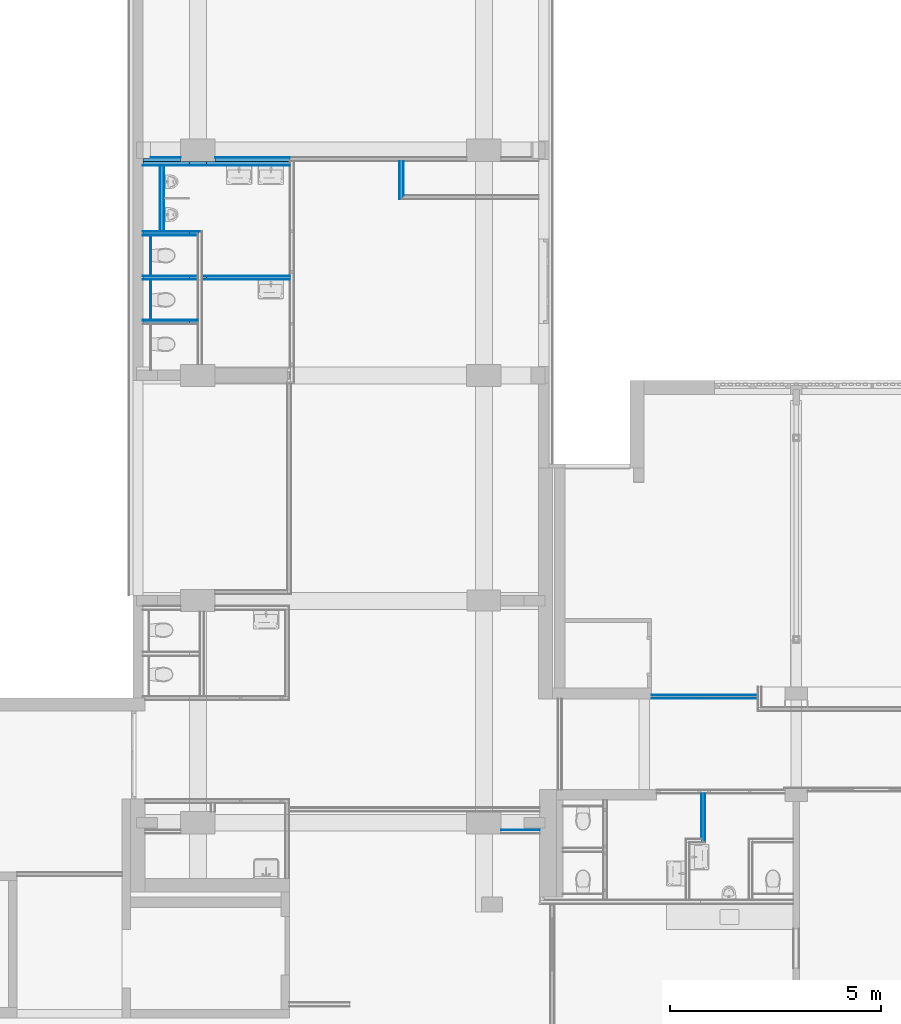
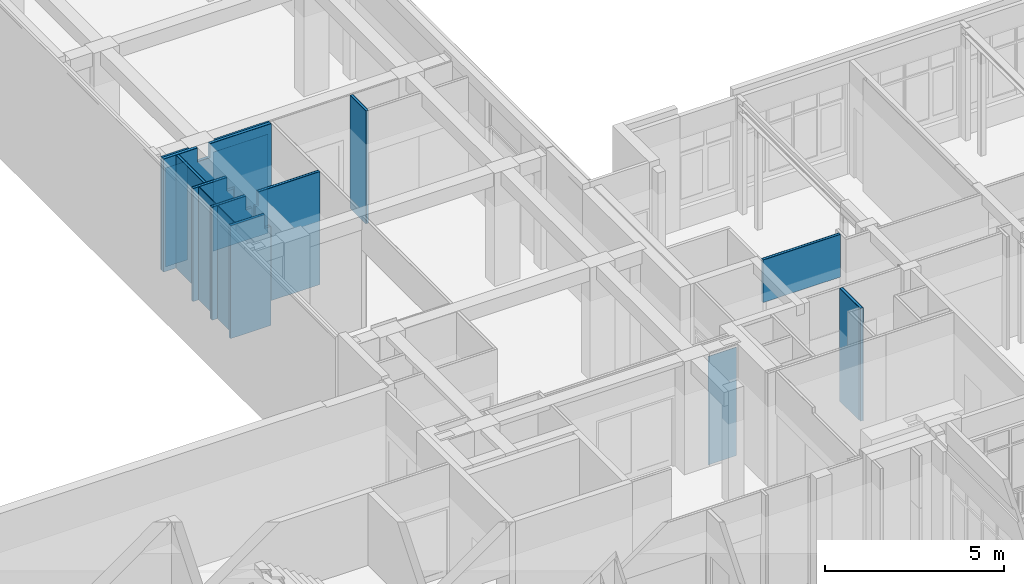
# One storey, part 107 of 135: 29 building element parts, 1 opening, 12 elements without a shape of their own.
"""IFC2X3 building model written with IfcOpenShell, lengths in millimetres."""

from ifc_helpers import new_model, entity, si_unit, converted_unit, derived_unit, money_unit, direction, frame, origin_with_axes, place, context, subcontext, project, spatial, faceted_brep, material, type_object, element, aggregate, save


model = new_model("IFC2X3")

# Units and contexts
model_context = context("Model", 3, precision=0.01, world=origin_with_axes(), true_north=direction((0.0, 1.0)))
body_context = subcontext(model_context, "Body", "Model", "MODEL_VIEW")
ifc_project = project(units=[si_unit("LENGTHUNIT", "METRE", prefix="MILLI"), si_unit("AREAUNIT", "SQUARE_METRE"), si_unit("VOLUMEUNIT", "CUBIC_METRE"), converted_unit("PLANEANGLEUNIT", "DEGREE", entity("IfcPlaneAngleMeasure", 0.0174532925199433), si_unit("PLANEANGLEUNIT", "RADIAN"), dimensions=[0, 0, 0, 0, 0, 0, 0]), money_unit("EUR"), converted_unit("TIMEUNIT", "Year", entity("IfcTimeMeasure", 31557600.0), si_unit("TIMEUNIT", "SECOND"), dimensions=[0, 0, 1, 0, 0, 0, 0]), si_unit("MASSUNIT", "GRAM", prefix="KILO"), si_unit("THERMODYNAMICTEMPERATUREUNIT", "DEGREE_CELSIUS"), si_unit("LUMINOUSINTENSITYUNIT", "LUMEN"), si_unit("ENERGYUNIT", "JOULE", prefix="MEGA"), derived_unit("THERMALCONDUCTANCEUNIT", [(si_unit("POWERUNIT", "WATT"), 1), (si_unit("LENGTHUNIT", "METRE"), -1), (si_unit("THERMODYNAMICTEMPERATUREUNIT", "KELVIN"), -1)]), derived_unit("SPECIFICHEATCAPACITYUNIT", [(si_unit("ENERGYUNIT", "JOULE"), 1), (si_unit("MASSUNIT", "GRAM", prefix="KILO"), -1), (si_unit("THERMODYNAMICTEMPERATUREUNIT", "KELVIN"), -1)]), derived_unit("MASSDENSITYUNIT", [(si_unit("MASSUNIT", "GRAM", prefix="KILO"), 1), (si_unit("VOLUMEUNIT", "CUBIC_METRE"), -1)])], contexts=[model_context])

# Site, building, storey
site_placement = place(None, origin_with_axes())
site = spatial("IfcSite", under=ifc_project, at=site_placement, Name="Site", CompositionType="ELEMENT")
building_placement = place(site_placement, origin_with_axes())
building = spatial("IfcBuilding", under=site, at=building_placement, Name="Naam gebouw", CompositionType="ELEMENT")
storey_placement = place(building_placement, origin_with_axes())
storey = spatial("IfcBuildingStorey", under=building, at=storey_placement, Name="Begane grond N", CompositionType="ELEMENT", Elevation=0.0)

# Wall, building element parts
wall_type_1 = type_object("IfcWallType", Name="Metalstud iso 100 enkel 100", PredefinedType="NOTDEFINED")
wall_1_placement = place(storey_placement, frame((24013.81290066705, 33123.41242510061, -100.0), z_axis=(0.0, 0.0, 1.0), x_axis=(-1.0, 0.0, 0.0)))
wall_1 = element("IfcWall", 1, at=wall_1_placement, inside=storey, type_object=wall_type_1, Name="_Wand-x")
ifc_material_1 = material(Name="Isolatie - Steenwol LSW")
building_element_part_1_placement = place(wall_1_placement, origin_with_axes())
building_element_part_1 = element("IfcBuildingElementPart", 2, at=building_element_part_1_placement, material=ifc_material_1, Name="Isolatie - Steenwol LSW", context=body_context, shape_type="Brep", body=[
    faceted_brep([(2587.812900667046, 37.50000000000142, 3479.998503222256), (2587.812900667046, 12.50000000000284, 3479.998503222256), (3297.812900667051, 12.50000000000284, 3479.998503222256), (3297.812900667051, 37.50000000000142, 3479.998503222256), (2587.812900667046, 12.50000000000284, 100.0), (2587.812900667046, 37.50000000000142, 3950.0), (2587.812900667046, 100.0000000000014, 3950.0), (2587.812900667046, 100.0000000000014, 100.0000000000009), (3297.812900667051, 12.50000000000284, 100.0), (3297.812900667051, 37.50000000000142, 100.0), (3477.812900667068, 37.50000000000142, 100.0), (3477.812900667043, 37.50000000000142, 3479.998503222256), (3477.812900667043, 37.50000000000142, 3950.0), (3477.812900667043, 100.0000000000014, 3950.0), (3477.812900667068, 100.0000000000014, 100.0)], [[[0, 1, 2, 3]], [[4, 1, 0, 5, 6, 7]], [[1, 4, 8, 2]], [[3, 2, 8, 9]], [[5, 0, 3, 9, 10, 11, 12]], [[6, 5, 12, 13]], [[7, 6, 13, 14]], [[4, 7, 14, 10, 9, 8]], [[11, 10, 14, 13, 12]]]),
    faceted_brep([(1767.812900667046, 12.50000000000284, 100.0), (1767.812900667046, 12.50000000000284, 3479.998503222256), (0.0, 12.50000000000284, 3479.998503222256), (0.0, 12.50000000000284, 100.0), (1767.812900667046, 37.50000000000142, 3479.998503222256), (1767.812900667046, 100.0000000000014, 100.0), (1767.812900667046, 100.0000000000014, 3950.0), (1767.812900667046, 37.50000000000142, 3950.0), (0.0, 37.50000000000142, 3479.998503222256), (0.0, 37.50000000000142, 3950.0), (0.0, 100.0000000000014, 3950.0), (0.0, 100.0000000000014, 100.0)], [[[0, 1, 2, 3]], [[4, 1, 0, 5, 6, 7]], [[1, 4, 8, 2]], [[2, 8, 9, 10, 11, 3]], [[5, 0, 3, 11]], [[6, 5, 11, 10]], [[7, 6, 10, 9]], [[4, 7, 9, 8]]]),
])
ifc_material_2 = material(Name="Gipsplaat")
building_element_part_2_placement = place(wall_1_placement, origin_with_axes())
building_element_part_2 = element("IfcBuildingElementPart", 3, at=building_element_part_2_placement, material=ifc_material_2, Name="Gipsplaat", context=body_context, shape_type="Brep", body=[
    faceted_brep([(2587.812900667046, 12.50000000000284, 3479.998503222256), (2587.812900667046, 0.0, 3479.998503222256), (3297.812900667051, 0.0, 3479.998503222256), (3297.812900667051, 12.50000000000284, 3479.998503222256), (2587.812900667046, 0.0, 100.0), (2587.812900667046, 12.50000000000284, 100.0), (3297.812900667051, 0.0, 100.0), (3297.812900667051, 12.50000000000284, 100.0)], [[[0, 1, 2, 3]], [[4, 1, 0, 5]], [[1, 4, 6, 2]], [[3, 2, 6, 7]], [[5, 0, 3, 7]], [[4, 5, 7, 6]]]),
    faceted_brep([(1767.812900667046, 0.0, 100.0), (1767.812900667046, 0.0, 3479.998503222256), (0.0, 0.0, 3479.998503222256), (0.0, 0.0, 100.0), (1767.812900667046, 12.50000000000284, 3479.998503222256), (1767.812900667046, 12.50000000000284, 100.0), (0.0, 12.50000000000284, 3479.998503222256), (0.0, 12.50000000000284, 100.0)], [[[0, 1, 2, 3]], [[4, 1, 0, 5]], [[1, 4, 6, 2]], [[3, 2, 6, 7]], [[5, 0, 3, 7]], [[4, 5, 7, 6]]]),
])
aggregate(wall_1, [building_element_part_1, building_element_part_2])

wall_type_2 = type_object("IfcWallType", Name="Metalstud iso 100 100", PredefinedType="NOTDEFINED")
wall_2_placement = place(storey_placement, frame((20535.99999999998, 30268.41242510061, 0.0), z_axis=(0.0, 0.0, 1.0), x_axis=(1.0, 0.0, 0.0)))
wall_2 = element("IfcWall", 4, at=wall_2_placement, inside=storey, type_object=wall_type_2, Name="_Wand-x")
building_element_part_3_placement = place(wall_2_placement, origin_with_axes())
building_element_part_3 = element("IfcBuildingElementPart", 5, at=building_element_part_3_placement, material=ifc_material_2, Name="Gipsplaat", context=body_context, shape_type="Brep", body=[
    faceted_brep([(1100.000000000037, 50.00000000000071, 3850.0), (1100.000000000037, 50.00000000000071, 3379.998269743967), (1300.000000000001, 50.00000000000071, 3379.998503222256), (1300.000000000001, 50.00000000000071, 0.0), (0.0, 50.00000000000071, 0.0), (0.0, 50.00000000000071, 3850.0), (1100.000000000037, 37.50000000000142, 3850.0), (1100.000000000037, 37.50000000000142, 3379.998268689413), (1300.000000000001, 37.50000000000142, 3379.998503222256), (1300.000000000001, 37.50000000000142, 0.0), (0.0, 37.50000000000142, 0.0), (0.0, 37.50000000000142, 3850.0)], [[[0, 1, 2, 3, 4, 5]], [[1, 0, 6, 7]], [[8, 2, 1, 7]], [[2, 8, 9, 3]], [[3, 9, 10, 4]], [[10, 11, 5, 4]], [[6, 0, 5, 11]], [[7, 6, 11, 10, 9, 8]]]),
    faceted_brep([(1400.000000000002, 50.00000000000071, 3379.998503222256), (1500.000000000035, 50.00000000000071, 3379.998269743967), (1500.000000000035, 50.00000000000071, 3850.0), (3477.812900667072, 50.00000000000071, 3850.0), (3477.812900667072, 50.00000000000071, 0.0), (1400.000000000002, 50.00000000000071, 0.0), (1400.000000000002, 37.50000000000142, 3379.998503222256), (1500.000000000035, 37.50000000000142, 3379.998268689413), (1500.000000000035, 37.50000000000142, 3850.0), (3477.812900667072, 37.50000000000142, 3850.0), (3477.812900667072, 37.50000000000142, 0.0), (1400.000000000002, 37.50000000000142, 0.0)], [[[0, 1, 2, 3, 4, 5]], [[1, 0, 6, 7]], [[8, 2, 1, 7]], [[2, 8, 9, 3]], [[4, 3, 9, 10]], [[10, 11, 5, 4]], [[6, 0, 5, 11]], [[7, 6, 11, 10, 9, 8]]]),
])
building_element_part_4_placement = place(wall_2_placement, origin_with_axes())
building_element_part_4 = element("IfcBuildingElementPart", 6, at=building_element_part_4_placement, material=ifc_material_1, Name="Isolatie - Steenwol LSW", context=body_context, shape_type="Brep", body=[
    faceted_brep([(1100.000000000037, 37.50000000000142, 3850.0), (1100.000000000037, 37.50000000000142, 3379.998268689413), (1300.000000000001, 37.50000000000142, 3379.998503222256), (1300.000000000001, 37.50000000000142, 0.0), (0.0, 37.50000000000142, 0.0), (0.0, 37.50000000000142, 3850.0), (1100.000000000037, -37.50000000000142, 3850.0), (1100.000000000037, -37.50000000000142, 3379.998262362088), (1300.000000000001, -37.50000000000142, 3379.998503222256), (1300.000000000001, -37.50000000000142, 0.0), (0.0, -37.50000000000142, 0.0), (0.0, -37.50000000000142, 3850.0)], [[[0, 1, 2, 3, 4, 5]], [[1, 0, 6, 7]], [[8, 2, 1, 7]], [[2, 8, 9, 3]], [[3, 9, 10, 4]], [[10, 11, 5, 4]], [[6, 0, 5, 11]], [[7, 6, 11, 10, 9, 8]]]),
    faceted_brep([(1400.000000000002, 37.50000000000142, 3379.998503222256), (1500.000000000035, 37.50000000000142, 3379.998268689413), (1500.000000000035, 37.50000000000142, 3850.0), (3477.812900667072, 37.50000000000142, 3850.0), (3477.812900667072, 37.50000000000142, 0.0), (1400.000000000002, 37.50000000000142, 0.0), (1400.000000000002, -37.50000000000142, 3379.998503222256), (1500.000000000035, -37.49999999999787, 3379.998262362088), (1500.000000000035, -37.50000000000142, 3850.0), (3477.812900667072, -37.49999999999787, 3850.0), (3477.812900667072, -37.50000000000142, 0.0), (1400.000000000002, -37.50000000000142, 0.0)], [[[0, 1, 2, 3, 4, 5]], [[1, 0, 6, 7]], [[8, 2, 1, 7]], [[2, 8, 9, 3]], [[4, 3, 9, 10]], [[10, 11, 5, 4]], [[6, 0, 5, 11]], [[7, 6, 11, 10, 9, 8]]]),
])
building_element_part_5_placement = place(wall_2_placement, origin_with_axes())
building_element_part_5 = element("IfcBuildingElementPart", 7, at=building_element_part_5_placement, material=ifc_material_2, Name="Gipsplaat", context=body_context, shape_type="Brep", body=[
    faceted_brep([(1100.000000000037, -37.50000000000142, 3850.0), (1100.000000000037, -37.50000000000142, 3379.998262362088), (1300.000000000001, -37.50000000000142, 3379.998503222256), (1300.000000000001, -37.50000000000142, 0.0), (0.0, -37.50000000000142, 0.0), (0.0, -37.50000000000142, 3850.0), (1100.000000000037, -50.00000000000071, 3850.0), (1100.000000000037, -50.00000000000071, 3379.998261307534), (1300.000000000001, -50.00000000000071, 3379.998503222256), (1300.000000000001, -50.00000000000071, 0.0), (0.0, -50.00000000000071, 0.0), (0.0, -50.00000000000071, 3850.0)], [[[0, 1, 2, 3, 4, 5]], [[1, 0, 6, 7]], [[8, 2, 1, 7]], [[2, 8, 9, 3]], [[3, 9, 10, 4]], [[10, 11, 5, 4]], [[6, 0, 5, 11]], [[7, 6, 11, 10, 9, 8]]]),
    faceted_brep([(1400.000000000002, -37.50000000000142, 3379.998503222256), (1500.000000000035, -37.50000000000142, 3379.998262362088), (1500.000000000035, -37.50000000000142, 3850.0), (3477.812900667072, -37.49999999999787, 3850.0), (3477.812900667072, -37.50000000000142, 0.0), (1400.000000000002, -37.50000000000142, 0.0), (1400.000000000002, -50.00000000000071, 3379.998503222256), (1500.000000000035, -50.00000000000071, 3379.998261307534), (1500.000000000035, -50.00000000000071, 3850.0), (3477.812900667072, -50.00000000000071, 3850.0), (3477.812900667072, -50.00000000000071, 0.0), (1400.000000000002, -50.00000000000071, 0.0)], [[[0, 1, 2, 3, 4, 5]], [[1, 0, 6, 7]], [[8, 2, 1, 7]], [[2, 8, 9, 3]], [[4, 3, 9, 10]], [[10, 11, 5, 4]], [[6, 0, 5, 11]], [[7, 6, 11, 10, 9, 8]]]),
])
aggregate(wall_2, [building_element_part_3, building_element_part_4, building_element_part_5])

wall_type_3 = type_object("IfcWallType", Name="Metalstud voorzetwand 200 200", PredefinedType="NOTDEFINED")
wall_3_placement = place(storey_placement, frame((20535.99999999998, 30318.41242510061, 0.0), z_axis=(0.0, 0.0, 1.0), x_axis=(0.0, 1.0, 0.0)))
wall_3 = element("IfcWall", 8, at=wall_3_placement, inside=storey, type_object=wall_type_3, Name="_Wand-x")
building_element_part_6_placement = place(wall_3_placement, origin_with_axes())
building_element_part_6 = element("IfcBuildingElementPart", 9, at=building_element_part_6_placement, material=ifc_material_2, Name="Gipsplaat", context=body_context, shape_type="Brep", body=[
    faceted_brep([(949.9999999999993, -175.0000000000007, 3850.000000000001), (949.9999999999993, -187.5, 3850.000000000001), (949.9999999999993, -187.5, 0.0), (949.9999999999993, -175.0000000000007, 0.0), (0.0, -187.5, 3850.000000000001), (0.0, -175.0000000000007, 3850.000000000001), (0.0, -187.5, 0.0), (0.0, -175.0000000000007, 0.0)], [[[0, 1, 2, 3]], [[4, 1, 0, 5]], [[1, 4, 6, 2]], [[7, 3, 2, 6]], [[5, 0, 3, 7]], [[4, 5, 7, 6]]]),
])
building_element_part_7_placement = place(wall_3_placement, origin_with_axes())
building_element_part_7 = element("IfcBuildingElementPart", 10, at=building_element_part_7_placement, material=ifc_material_2, Name="Gipsplaat", context=body_context, shape_type="Brep", body=[
    faceted_brep([(949.9999999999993, -187.5, 3850.000000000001), (949.9999999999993, -199.9999999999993, 3850.000000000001), (949.9999999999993, -199.9999999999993, 0.0), (949.9999999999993, -187.5, 0.0), (0.0, -199.9999999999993, 3850.000000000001), (0.0, -187.5, 3850.000000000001), (0.0, -199.9999999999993, 0.0), (0.0, -187.5, 0.0)], [[[0, 1, 2, 3]], [[4, 1, 0, 5]], [[1, 4, 6, 2]], [[7, 3, 2, 6]], [[5, 0, 3, 7]], [[4, 5, 7, 6]]]),
])
aggregate(wall_3, [building_element_part_6, building_element_part_7])

wall_4_placement = place(storey_placement, frame((26605.99999999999, 32223.41242510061, -100.0), z_axis=(0.0, 0.0, 1.0), x_axis=(0.0, 1.0, 0.0)))
wall_4 = element("IfcWall", 11, at=wall_4_placement, inside=storey, type_object=wall_type_2, Name="_Wand-x")
building_element_part_8_placement = place(wall_4_placement, origin_with_axes())
building_element_part_8 = element("IfcBuildingElementPart", 12, at=building_element_part_8_placement, material=ifc_material_2, Name="Gipsplaat", context=body_context, shape_type="Brep", body=[
    faceted_brep([(799.9999999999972, 0.0, 3950.0), (799.9999999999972, -12.49999999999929, 3950.0), (799.9999999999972, -12.49999999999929, 100.0), (799.9999999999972, 0.0, 100.0), (-100.0000000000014, -12.49999999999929, 3950.0), (-100.0000000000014, 0.0, 3950.0), (-100.0000000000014, -12.49999999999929, 100.0), (-100.0000000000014, 0.0, 100.0)], [[[0, 1, 2, 3]], [[4, 1, 0, 5]], [[1, 4, 6, 2]], [[3, 2, 6, 7]], [[5, 0, 3, 7]], [[4, 5, 7, 6]]]),
])
building_element_part_9_placement = place(wall_4_placement, origin_with_axes())
building_element_part_9 = element("IfcBuildingElementPart", 13, at=building_element_part_9_placement, material=ifc_material_2, Name="Gipsplaat", context=body_context, shape_type="Brep", body=[
    faceted_brep([(799.9999999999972, -87.49999999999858, 3950.0), (799.9999999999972, -100.0000000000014, 3950.0), (799.9999999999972, -100.0000000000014, 100.0), (799.9999999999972, -87.49999999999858, 100.0), (-12.50000000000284, -100.0000000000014, 3950.0), (-12.50000000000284, -87.49999999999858, 3950.0), (-12.50000000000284, -100.0000000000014, 100.0), (-12.50000000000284, -87.49999999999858, 100.0)], [[[0, 1, 2, 3]], [[4, 1, 0, 5]], [[1, 4, 6, 2]], [[3, 2, 6, 7]], [[5, 0, 3, 7]], [[4, 5, 7, 6]]]),
])
building_element_part_10_placement = place(wall_4_placement, origin_with_axes())
building_element_part_10 = element("IfcBuildingElementPart", 14, at=building_element_part_10_placement, material=ifc_material_1, Name="Isolatie - Steenwol LSW", context=body_context, shape_type="Brep", body=[
    faceted_brep([(799.9999999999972, -12.49999999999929, 3950.0), (799.9999999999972, -87.49999999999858, 3950.0), (799.9999999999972, -87.49999999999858, 100.0), (799.9999999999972, -12.49999999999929, 100.0), (-87.49999999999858, -87.49999999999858, 3950.0), (-87.49999999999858, -12.49999999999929, 3950.0), (-87.49999999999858, -87.49999999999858, 100.0), (-87.49999999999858, -12.49999999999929, 100.0)], [[[0, 1, 2, 3]], [[4, 1, 0, 5]], [[1, 4, 6, 2]], [[3, 2, 6, 7]], [[5, 0, 3, 7]], [[4, 5, 7, 6]]]),
])
aggregate(wall_4, [building_element_part_8, building_element_part_9, building_element_part_10])

wall_5_placement = place(storey_placement, frame((20985.99999999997, 31318.41242510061, 0.0), z_axis=(0.0, 0.0, 1.0), x_axis=(0.0, 1.0, 0.0)))
wall_5 = element("IfcWall", 15, at=wall_5_placement, inside=storey, type_object=wall_type_2, Name="_Wand-x")
building_element_part_11_placement = place(wall_5_placement, origin_with_axes())
building_element_part_11 = element("IfcBuildingElementPart", 16, at=building_element_part_11_placement, material=ifc_material_2, Name="Gipsplaat", context=body_context, shape_type="Brep", body=[
    faceted_brep([(1604.999999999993, 50.00000000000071, 3850.0), (1604.999999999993, 37.50000000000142, 3850.0), (1604.999999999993, 37.50000000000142, 0.0), (1604.999999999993, 50.00000000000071, 0.0), (50.00000000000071, 37.50000000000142, 3850.0), (50.00000000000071, 50.00000000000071, 3850.0), (50.00000000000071, 37.50000000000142, 0.0), (50.00000000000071, 50.00000000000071, 0.0)], [[[0, 1, 2, 3]], [[4, 1, 0, 5]], [[1, 4, 6, 2]], [[3, 2, 6, 7]], [[5, 0, 3, 7]], [[4, 5, 7, 6]]]),
])
building_element_part_12_placement = place(wall_5_placement, origin_with_axes())
building_element_part_12 = element("IfcBuildingElementPart", 17, at=building_element_part_12_placement, material=ifc_material_2, Name="Gipsplaat", context=body_context, shape_type="Brep", body=[
    faceted_brep([(1604.999999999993, -37.50000000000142, 3850.0), (1604.999999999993, -50.00000000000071, 3850.0), (1604.999999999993, -50.00000000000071, 0.0), (1604.999999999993, -37.50000000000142, 0.0), (50.00000000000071, -50.00000000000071, 3850.0), (50.00000000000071, -37.50000000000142, 3850.0), (50.00000000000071, -50.00000000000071, 0.0), (50.00000000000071, -37.50000000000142, 0.0)], [[[0, 1, 2, 3]], [[4, 1, 0, 5]], [[1, 4, 6, 2]], [[3, 2, 6, 7]], [[5, 0, 3, 7]], [[4, 5, 7, 6]]]),
])
building_element_part_13_placement = place(wall_5_placement, origin_with_axes())
building_element_part_13 = element("IfcBuildingElementPart", 18, at=building_element_part_13_placement, material=ifc_material_1, Name="Isolatie - Steenwol LSW", context=body_context, shape_type="Brep", body=[
    faceted_brep([(1604.999999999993, 37.50000000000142, 3850.0), (1604.999999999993, -37.50000000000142, 3850.0), (1604.999999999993, -37.50000000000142, 0.0), (1604.999999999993, 37.50000000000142, 0.0), (50.00000000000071, -37.50000000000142, 3850.0), (50.00000000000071, 37.50000000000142, 3850.0), (50.00000000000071, -37.50000000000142, 0.0), (50.00000000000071, 37.50000000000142, 0.0)], [[[0, 1, 2, 3]], [[4, 1, 0, 5]], [[1, 4, 6, 2]], [[3, 2, 6, 7]], [[5, 0, 3, 7]], [[4, 5, 7, 6]]]),
])
aggregate(wall_5, [building_element_part_11, building_element_part_12, building_element_part_13])

wall_6_placement = place(storey_placement, frame((24013.81290066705, 32923.4124251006, 0.0), z_axis=(0.0, 0.0, 1.0), x_axis=(-1.0, 0.0, 0.0)))
wall_6 = element("IfcWall", 19, at=wall_6_placement, inside=storey, type_object=wall_type_1, Name="_Wand-x")
building_element_part_14_placement = place(wall_6_placement, origin_with_axes())
building_element_part_14 = element("IfcBuildingElementPart", 20, at=building_element_part_14_placement, material=ifc_material_1, Name="Isolatie - Steenwol LSW", context=body_context, shape_type="Brep", body=[
    faceted_brep([(2377.812900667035, -100.0000000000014, 3379.998497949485), (1977.812900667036, -100.0000000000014, 3379.998497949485), (1977.812900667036, -100.0000000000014, 3850.0), (0.0, -100.0000000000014, 3850.0), (0.0, -100.0000000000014, 0.0), (3477.812900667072, -100.0000000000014, 0.0), (3477.812900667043, -100.0000000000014, 3850.0), (2377.812900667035, -100.0000000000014, 3850.0), (2377.812900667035, -12.50000000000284, 3379.998490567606), (1977.812900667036, -12.50000000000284, 3379.998490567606), (1977.812900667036, -12.50000000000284, 3850.0), (0.0, -12.50000000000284, 3850.0), (0.0, -12.50000000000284, 0.0), (3477.812900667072, -12.50000000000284, 0.0), (3477.812900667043, -12.50000000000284, 3850.0), (2377.812900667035, -12.50000000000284, 3850.0)], [[[0, 1, 2, 3, 4, 5, 6, 7]], [[1, 0, 8, 9]], [[10, 2, 1, 9]], [[2, 10, 11, 3]], [[4, 3, 11, 12]], [[4, 12, 13, 5]], [[13, 14, 6, 5]], [[15, 7, 6, 14]], [[0, 7, 15, 8]], [[8, 15, 14, 13, 12, 11, 10, 9]]]),
])
building_element_part_15_placement = place(wall_6_placement, origin_with_axes())
building_element_part_15 = element("IfcBuildingElementPart", 21, at=building_element_part_15_placement, material=ifc_material_2, Name="Gipsplaat", context=body_context, shape_type="Brep", body=[
    faceted_brep([(2377.812900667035, -12.50000000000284, 3379.998490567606), (1977.812900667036, -12.50000000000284, 3379.998490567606), (1977.812900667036, -12.50000000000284, 3850.0), (0.0, -12.50000000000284, 3850.0), (0.0, -12.50000000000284, 0.0), (3477.812900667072, -12.50000000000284, 0.0), (3477.812900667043, -12.50000000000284, 3850.0), (2377.812900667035, -12.50000000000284, 3850.0), (2377.812900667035, 0.0, 3379.998489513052), (1977.812900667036, 0.0, 3379.998489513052), (1977.812900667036, 0.0, 3850.0), (0.0, 0.0, 3850.0), (0.0, 0.0, 0.0), (3477.812900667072, 0.0, 0.0), (3477.812900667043, 0.0, 3850.0), (2377.812900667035, 0.0, 3850.0)], [[[0, 1, 2, 3, 4, 5, 6, 7]], [[1, 0, 8, 9]], [[10, 2, 1, 9]], [[2, 10, 11, 3]], [[4, 3, 11, 12]], [[4, 12, 13, 5]], [[13, 14, 6, 5]], [[15, 7, 6, 14]], [[0, 7, 15, 8]], [[8, 15, 14, 13, 12, 11, 10, 9]]]),
])
aggregate(wall_6, [building_element_part_14, building_element_part_15])

# Wall, building element part
wall_7_placement = place(storey_placement, frame((29015.99999999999, 17103.41242510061, 0.0), z_axis=(0.0, 0.0, 1.0), x_axis=(1.0, 0.0, 0.0)))
wall_7 = element("IfcWall", 22, at=wall_7_placement, inside=storey, type_object=wall_type_2, Name="_Wand-x")
building_element_part_16_placement = place(wall_7_placement, origin_with_axes())
building_element_part_16 = element("IfcBuildingElementPart", 23, at=building_element_part_16_placement, material=ifc_material_2, Name="Gipsplaat", context=body_context, shape_type="Brep", body=[
    faceted_brep([(0.0, 100.0000000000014, 0.0), (0.0, 100.0000000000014, 3699.999999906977), (913.1870993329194, 100.0000000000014, 3699.999999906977), (913.1870993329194, 100.0000000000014, 0.0), (0.0, 87.49999999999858, 0.0), (0.0, 87.49999999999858, 3699.999999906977), (913.1870993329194, 87.49999999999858, 3699.999999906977), (913.1870993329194, 87.49999999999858, 0.0)], [[[0, 1, 2, 3]], [[4, 5, 1, 0]], [[5, 6, 2, 1]], [[3, 2, 6, 7]], [[4, 0, 3, 7]], [[7, 6, 5, 4]]]),
])
aggregate(wall_7, [building_element_part_16])

# Wall, building element parts
wall_8_placement = place(storey_placement, frame((33749.1870993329, 18050.91242510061, 0.0), z_axis=(0.0, 0.0, 1.0), x_axis=(0.0, -1.0, 0.0)))
wall_8 = element("IfcWall", 24, at=wall_8_placement, inside=storey, type_object=wall_type_2, Name="_Wand-x")
building_element_part_17_placement = place(wall_8_placement, origin_with_axes())
building_element_part_17 = element("IfcBuildingElementPart", 25, at=building_element_part_17_placement, material=ifc_material_1, Name="Isolatie - Steenwol LSW", context=body_context, shape_type="Brep", body=[
    faceted_brep([(0.0, 12.50000000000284, 3850.0), (0.0, 87.49999999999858, 3850.0), (0.0, 87.49999999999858, 0.0), (0.0, 12.50000000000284, 0.0), (1147.499999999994, 87.49999999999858, 3850.0), (1147.499999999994, 12.50000000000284, 3850.0), (1147.499999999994, 87.49999999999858, 0.0), (1147.499999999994, 12.50000000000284, 0.0)], [[[0, 1, 2, 3]], [[4, 1, 0, 5]], [[1, 4, 6, 2]], [[6, 7, 3, 2]], [[5, 0, 3, 7]], [[4, 5, 7, 6]]]),
])
building_element_part_18_placement = place(wall_8_placement, origin_with_axes())
building_element_part_18 = element("IfcBuildingElementPart", 26, at=building_element_part_18_placement, material=ifc_material_2, Name="Gipsplaat", context=body_context, shape_type="Brep", body=[
    faceted_brep([(0.0, 0.0, 3850.0), (0.0, 12.50000000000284, 3850.0), (0.0, 12.50000000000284, 0.0), (0.0, 0.0, 0.0), (1072.499999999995, 12.50000000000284, 3850.0), (1072.499999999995, 0.0, 3850.0), (1072.499999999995, 12.50000000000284, 0.0), (1072.499999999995, 0.0, 0.0)], [[[0, 1, 2, 3]], [[4, 1, 0, 5]], [[1, 4, 6, 2]], [[6, 7, 3, 2]], [[5, 0, 3, 7]], [[4, 5, 7, 6]]]),
])
building_element_part_19_placement = place(wall_8_placement, origin_with_axes())
building_element_part_19 = element("IfcBuildingElementPart", 27, at=building_element_part_19_placement, material=ifc_material_2, Name="Gipsplaat", context=body_context, shape_type="Brep", body=[
    faceted_brep([(0.0, 87.49999999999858, 3850.0), (0.0, 100.0000000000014, 3850.0), (0.0, 100.0000000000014, 0.0), (0.0, 87.49999999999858, 0.0), (1159.999999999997, 100.0000000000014, 3850.0), (1159.999999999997, 87.49999999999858, 3850.0), (1159.999999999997, 100.0000000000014, 0.0), (1159.999999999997, 87.49999999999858, 0.0)], [[[0, 1, 2, 3]], [[4, 1, 0, 5]], [[1, 4, 6, 2]], [[6, 7, 3, 2]], [[5, 0, 3, 7]], [[4, 5, 7, 6]]]),
])
aggregate(wall_8, [building_element_part_17, building_element_part_18, building_element_part_19])

# Wall, opening, building element parts
wall_9_placement = place(storey_placement, frame((32581.11706441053, 20350.91242510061, 0.0), z_axis=(0.0, 0.0, 1.0), x_axis=(1.0, 0.0, 0.0)))
wall_9 = element("IfcWall", 28, at=wall_9_placement, inside=storey, type_object=wall_type_2, Name="_Wand-x")
opening_placement = place(wall_9_placement, frame((1251.941467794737, 0.0, 0.0), z_axis=(0.0, 0.0, 1.0), x_axis=(1.0, 0.0, 0.0)))
element("IfcOpeningElement", 29, at=opening_placement, cuts=wall_9, Name="_Merk-x", context=body_context, shape_type="Brep", body=[
    faceted_brep([(1251.941467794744, -10.00000000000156, 0.0), (1251.941467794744, -10.00000000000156, 2400.0), (1251.941467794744, -51.00000000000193, 2400.0), (1251.941467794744, -51.00000000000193, 0.0), (1251.941467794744, 51.00000000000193, 0.0), (1251.941467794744, 51.00000000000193, 2400.0), (-1251.941467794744, -10.00000000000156, 2400.0), (-1251.941467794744, -51.00000000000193, 2400.0), (-1251.941467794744, 51.00000000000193, 2400.0), (-1251.941467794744, -51.00000000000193, 0.0), (-1251.941467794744, -10.00000000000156, 0.0), (-1251.941467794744, 51.00000000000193, 0.0)], [[[0, 1, 2, 3]], [[1, 0, 4, 5]], [[6, 7, 2, 1, 5, 8]], [[7, 9, 3, 2]], [[0, 3, 9, 10, 11, 4]], [[5, 4, 11, 8]], [[6, 10, 9, 7]], [[10, 6, 8, 11]]]),
])
building_element_part_20_placement = place(wall_9_placement, origin_with_axes())
building_element_part_20 = element("IfcBuildingElementPart", 30, at=building_element_part_20_placement, material=ifc_material_2, Name="Gipsplaat", context=body_context, shape_type="Brep", body=[
    faceted_brep([(2503.88293558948, 37.50000000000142, 2400.0), (2503.88293558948, 50.00000000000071, 2400.0), (2503.88293558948, 50.00000000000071, 3850.0), (2503.88293558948, 37.50000000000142, 3850.0), (0.0, 50.00000000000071, 2400.0), (0.0, 37.50000000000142, 2400.0), (0.0, 50.00000000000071, 3850.0), (0.0, 37.50000000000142, 3850.0)], [[[0, 1, 2, 3]], [[4, 1, 0, 5]], [[1, 4, 6, 2]], [[2, 6, 7, 3]], [[5, 0, 3, 7]], [[4, 5, 7, 6]]]),
])
building_element_part_21_placement = place(wall_9_placement, origin_with_axes())
building_element_part_21 = element("IfcBuildingElementPart", 31, at=building_element_part_21_placement, material=ifc_material_1, Name="Isolatie - Steenwol LSW", context=body_context, shape_type="Brep", body=[
    faceted_brep([(2503.88293558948, -10.00000000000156, 2400.0), (2503.88293558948, 37.50000000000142, 2400.0), (2503.88293558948, 37.50000000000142, 3850.0), (2503.88293558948, -37.49999999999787, 3850.0), (2503.88293558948, -37.49999999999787, 2400.0), (0.0, -10.00000000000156, 2400.0), (0.0, 37.50000000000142, 2400.0), (0.0, -37.50000000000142, 2400.0), (0.0, 37.50000000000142, 3850.0), (0.0, -37.50000000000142, 3850.0)], [[[0, 1, 2, 3, 4]], [[5, 6, 1, 0, 4, 7]], [[1, 6, 8, 2]], [[8, 9, 3, 2]], [[4, 3, 9, 7]], [[6, 5, 7, 9, 8]]]),
])
building_element_part_22_placement = place(wall_9_placement, origin_with_axes())
building_element_part_22 = element("IfcBuildingElementPart", 32, at=building_element_part_22_placement, material=ifc_material_2, Name="Gipsplaat", context=body_context, shape_type="Brep", body=[
    faceted_brep([(2503.88293558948, -50.00000000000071, 2400.0), (2503.88293558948, -37.49999999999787, 2400.0), (2503.88293558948, -37.49999999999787, 3850.0), (2503.88293558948, -50.00000000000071, 3850.0), (0.0, -37.50000000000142, 2400.0), (0.0, -50.00000000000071, 2400.0), (0.0, -37.50000000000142, 3850.0), (0.0, -50.00000000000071, 3850.0)], [[[0, 1, 2, 3]], [[4, 1, 0, 5]], [[1, 4, 6, 2]], [[2, 6, 7, 3]], [[5, 0, 3, 7]], [[4, 5, 7, 6]]]),
])
aggregate(wall_9, [building_element_part_20, building_element_part_21, building_element_part_22])

# Wall, building element part
wall_10_placement = place(storey_placement, frame((20535.99999999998, 29218.41242510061, 0.0), z_axis=(0.0, 0.0, 1.0), x_axis=(1.0, 0.0, 0.0)))
wall_10 = element("IfcWall", 33, at=wall_10_placement, inside=storey, type_object=wall_type_2, Name="_Wand-x")
building_element_part_23_placement = place(wall_10_placement, origin_with_axes())
building_element_part_23 = element("IfcBuildingElementPart", 34, at=building_element_part_23_placement, material=ifc_material_1, Name="Isolatie - Steenwol LSW", context=body_context, shape_type="Brep", body=[
    faceted_brep([(1100.000000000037, 37.50000000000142, 3850.0), (1100.000000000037, 37.50000000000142, 3379.998180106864), (1300.000000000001, 37.50000000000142, 3379.998503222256), (1300.000000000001, 37.50000000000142, 0.0), (0.0, 37.50000000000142, 0.0), (0.0, 37.50000000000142, 3850.0), (1100.000000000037, -37.49999999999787, 3850.0), (1100.000000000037, -37.49999999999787, 3379.998173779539), (1300.000000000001, -37.49999999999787, 3379.998503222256), (1300.000000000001, -37.50000000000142, 0.0), (0.0, -37.50000000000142, 0.0), (0.0, -37.50000000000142, 3850.0)], [[[0, 1, 2, 3, 4, 5]], [[1, 0, 6, 7]], [[8, 2, 1, 7]], [[2, 8, 9, 3]], [[3, 9, 10, 4]], [[10, 11, 5, 4]], [[6, 0, 5, 11]], [[7, 6, 11, 10, 9, 8]]]),
])

# Wall, building element parts
wall_11_placement = place(storey_placement, frame((20535.99999999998, 31318.41242510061, 0.0), z_axis=(0.0, 0.0, 1.0), x_axis=(1.0, 0.0, 0.0)))
wall_11 = element("IfcWall", 35, at=wall_11_placement, inside=storey, type_object=wall_type_2, Name="_Wand-x")
building_element_part_24_placement = place(wall_11_placement, origin_with_axes())
building_element_part_24 = element("IfcBuildingElementPart", 36, at=building_element_part_24_placement, material=ifc_material_2, Name="Gipsplaat", context=body_context, shape_type="Brep", body=[
    faceted_brep([(1100.000000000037, -37.49999999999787, 3850.0), (1100.000000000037, -37.50000000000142, 3379.998350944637), (1300.000000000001, -37.49999999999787, 3379.998503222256), (1300.000000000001, -37.50000000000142, 0.0), (0.0, -37.50000000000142, 0.0), (0.0, -37.50000000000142, 3850.0), (1100.000000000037, -50.00000000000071, 3850.0), (1100.000000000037, -50.00000000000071, 3379.998349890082), (1300.000000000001, -50.00000000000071, 3379.998503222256), (1300.000000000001, -50.00000000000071, 0.0), (0.0, -50.00000000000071, 0.0), (0.0, -50.00000000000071, 3850.0)], [[[0, 1, 2, 3, 4, 5]], [[1, 0, 6, 7]], [[8, 2, 1, 7]], [[2, 8, 9, 3]], [[3, 9, 10, 4]], [[10, 11, 5, 4]], [[6, 0, 5, 11]], [[7, 6, 11, 10, 9, 8]]]),
])
building_element_part_25_placement = place(wall_11_placement, origin_with_axes())
building_element_part_25 = element("IfcBuildingElementPart", 37, at=building_element_part_25_placement, material=ifc_material_2, Name="Gipsplaat", context=body_context, shape_type="Brep", body=[
    faceted_brep([(1100.000000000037, 50.00000000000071, 3850.0), (1100.000000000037, 50.00000000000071, 3379.998358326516), (1387.499999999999, 50.00000000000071, 3379.998503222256), (1387.499999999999, 50.00000000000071, 0.0), (0.0, 50.00000000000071, 0.0), (0.0, 50.00000000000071, 3850.0), (1100.000000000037, 37.50000000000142, 3850.0), (1100.000000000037, 37.50000000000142, 3379.998357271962), (1387.499999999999, 37.50000000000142, 3379.998503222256), (1387.499999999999, 37.50000000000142, 0.0), (0.0, 37.50000000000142, 0.0), (0.0, 37.50000000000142, 3850.0)], [[[0, 1, 2, 3, 4, 5]], [[1, 0, 6, 7]], [[8, 2, 1, 7]], [[2, 8, 9, 3]], [[3, 9, 10, 4]], [[10, 11, 5, 4]], [[6, 0, 5, 11]], [[7, 6, 11, 10, 9, 8]]]),
])
building_element_part_26_placement = place(wall_11_placement, origin_with_axes())
building_element_part_26 = element("IfcBuildingElementPart", 38, at=building_element_part_26_placement, material=ifc_material_1, Name="Isolatie - Steenwol LSW", context=body_context, shape_type="Brep", body=[
    faceted_brep([(1100.000000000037, 37.50000000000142, 3850.0), (1100.000000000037, 37.50000000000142, 3379.998357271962), (1312.5, 37.50000000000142, 3379.998503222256), (1312.5, 37.50000000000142, 0.0), (0.0, 37.50000000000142, 0.0), (0.0, 37.50000000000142, 3850.0), (1100.000000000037, -37.49999999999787, 3850.0), (1100.000000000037, -37.49999999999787, 3379.998350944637), (1312.5, -37.49999999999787, 3379.998503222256), (1312.5, -37.50000000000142, 0.0), (0.0, -37.49999999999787, 0.0), (0.0, -37.50000000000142, 3850.0)], [[[0, 1, 2, 3, 4, 5]], [[1, 0, 6, 7]], [[8, 2, 1, 7]], [[2, 8, 9, 3]], [[3, 9, 10, 4]], [[10, 11, 5, 4]], [[6, 0, 5, 11]], [[7, 6, 11, 10, 9, 8]]]),
])
aggregate(wall_11, [building_element_part_24, building_element_part_25, building_element_part_26])

wall_12_placement = place(storey_placement, frame((20535.99999999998, 30218.41242510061, 0.0), z_axis=(0.0, 0.0, 1.0), x_axis=(0.0, -1.0, 0.0)))
wall_12 = element("IfcWall", 39, at=wall_12_placement, inside=storey, type_object=wall_type_3, Name="_Wand-x")
building_element_part_27_placement = place(wall_12_placement, origin_with_axes())
building_element_part_27 = element("IfcBuildingElementPart", 40, at=building_element_part_27_placement, material=ifc_material_2, Name="Gipsplaat", context=body_context, shape_type="Brep", body=[
    faceted_brep([(0.0, 187.5, 3850.000000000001), (0.0, 199.9999999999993, 3850.000000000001), (0.0, 199.9999999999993, 0.0), (0.0, 187.5, 0.0), (949.9999999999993, 199.9999999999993, 3850.000000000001), (949.9999999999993, 187.5, 3850.000000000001), (949.9999999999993, 199.9999999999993, 0.0), (949.9999999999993, 187.5, 0.0)], [[[0, 1, 2, 3]], [[4, 1, 0, 5]], [[1, 4, 6, 2]], [[2, 6, 7, 3]], [[5, 0, 3, 7]], [[4, 5, 7, 6]]]),
])
building_element_part_28_placement = place(wall_12_placement, origin_with_axes())
building_element_part_28 = element("IfcBuildingElementPart", 41, at=building_element_part_28_placement, material=ifc_material_2, Name="Gipsplaat", context=body_context, shape_type="Brep", body=[
    faceted_brep([(0.0, 175.0000000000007, 3850.000000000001), (0.0, 187.5, 3850.000000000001), (0.0, 187.5, 0.0), (0.0, 175.0000000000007, 0.0), (949.9999999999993, 187.5, 3850.000000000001), (949.9999999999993, 175.0000000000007, 3850.000000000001), (949.9999999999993, 187.5, 0.0), (949.9999999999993, 175.0000000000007, 0.0)], [[[0, 1, 2, 3]], [[4, 1, 0, 5]], [[1, 4, 6, 2]], [[2, 6, 7, 3]], [[5, 0, 3, 7]], [[4, 5, 7, 6]]]),
])
aggregate(wall_12, [building_element_part_27, building_element_part_28])

# Building element part
building_element_part_29_placement = place(wall_10_placement, origin_with_axes())
building_element_part_29 = element("IfcBuildingElementPart", 42, at=building_element_part_29_placement, material=ifc_material_2, Name="Gipsplaat", context=body_context, shape_type="Brep", body=[
    faceted_brep([(1100.000000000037, 50.00000000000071, 3850.0), (1100.000000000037, 50.00000000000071, 3379.998181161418), (1300.000000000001, 50.00000000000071, 3379.998503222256), (1300.000000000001, 50.00000000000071, 0.0), (0.0, 50.00000000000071, 0.0), (0.0, 50.00000000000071, 3850.0), (1100.000000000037, 37.50000000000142, 3850.0), (1100.000000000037, 37.50000000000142, 3379.998180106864), (1300.000000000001, 37.50000000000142, 3379.998503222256), (1300.000000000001, 37.50000000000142, 0.0), (0.0, 37.50000000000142, 0.0), (0.0, 37.50000000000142, 3850.0)], [[[0, 1, 2, 3, 4, 5]], [[1, 0, 6, 7]], [[8, 2, 1, 7]], [[2, 8, 9, 3]], [[3, 9, 10, 4]], [[10, 11, 5, 4]], [[6, 0, 5, 11]], [[7, 6, 11, 10, 9, 8]]]),
])

aggregate(wall_10, [building_element_part_23, building_element_part_29])

save(model, "model.ifc")
